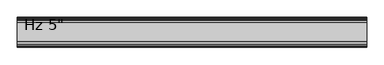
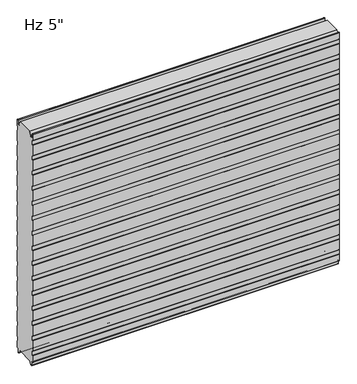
"""IFC4 building model written with IfcOpenShell, lengths in millimetres: plate geometry."""

from ifc_helpers import new_model, si_unit, frame, origin, place, context, project, spatial, polyline, circle_curve, source, transform, mapped, element, save
from ifc_brep_helpers import plane_surface, cylinder_surface, revolved_surface, advanced_brep


def plate_33ee314c(model_context):
    return source(origin(), model_context, "Body", "AdvancedBrep", [
        advanced_brep(
        [(-730.0, -124.8088405, 1097.7830195), (-730.0, -124.8088405, 1117.5660142), (-730.0, -125.9999956, 1118.6385351), (-730.0, -125.9999956, 1150.8100652), (-730.0, -124.0227271, 1152.7873337), (-730.0, -122.9806285, 1152.7873337), (-730.0, -121.00336, 1150.8100652), (-730.0, -121.00336, 1136.6216802), (-730.0, -118.4154835, 1134.0338036), (-730.0, -114.0950653, 1134.0338036), (-730.0, -113.5060718, 1133.4253365), (-730.0, -113.5060718, 1131.0482432), (-730.0, -112.5065979, 1131.0482432), (-730.0, -112.5065979, 1136.4905123), (-730.0, -103.2490821, 1152.525), (-730.0, -23.7509179, 1152.525), (-730.0, -14.4934021, 1136.4905123), (-730.0, -14.4934021, 1131.0482432), (-730.0, -13.4939282, 1131.0482432), (-730.0, -13.4939282, 1133.4253365), (-730.0, -12.9049347, 1134.0338036), (-730.0, -8.5845165, 1134.0338036), (-730.0, -5.99664, 1136.6216802), (-730.0, -5.99664, 1150.8100652), (-730.0, -4.0193715, 1152.7873337), (-730.0, -2.9772729, 1152.7873337), (-730.0, -1.0000044, 1150.8100652), (-730.0, -1.0000044, 1118.6385351), (-730.0, -2.1911595, 1117.5660142), (-730.0, -2.1911595, 1097.7830195), (-730.0, -1.0, 1096.7104947), (-730.0, -1.0, 1043.0159187), (-730.0, -2.1911595, 1041.9433939), (-730.0, -2.1911595, 1022.1603992), (-730.0, -1.0, 1021.0878744), (-730.0, -1.0, 967.3932985), (-730.0, -2.1911595, 966.3207736), (-730.0, -2.1911595, 946.537779), (-730.0, -1.0, 945.4652541), (-730.0, -1.0, 891.7706782), (-730.0, -2.1911595, 890.6981534), (-730.0, -2.1911595, 870.9151587), (-730.0, -1.0, 869.8426339), (-730.0, -1.0, 816.148058), (-730.0, -2.1911595, 815.0755331), (-730.0, -2.1911595, 795.2925384), (-730.0, -1.0, 794.2200136), (-730.0, -1.0, 740.5254377), (-730.0, -2.1911595, 739.4529129), (-730.0, -2.1911595, 719.6699182), (-730.0, -1.0, 718.5973933), (-730.0, -1.0, 664.9028174), (-730.0, -2.1911595, 663.8302926), (-730.0, -2.1911595, 644.0472979), (-730.0, -1.0, 642.9747731), (-730.0, -1.0, 589.2801972), (-730.0, -2.1911595, 588.2076723), (-730.0, -2.1911595, 568.4246776), (-730.0, -1.0, 567.3521528), (-730.0, -1.0, 513.6575769), (-730.0, -2.1911595, 512.5850521), (-730.0, -2.1911595, 492.8020574), (-730.0, -1.0, 491.7295325), (-730.0, -1.0, 438.0349566), (-730.0, -2.1911595, 436.9624318), (-730.0, -2.1911595, 417.1794371), (-730.0, -1.0, 416.1069123), (-730.0, -1.0, 362.4123364), (-730.0, -2.1911595, 361.3398115), (-730.0, -2.1911595, 341.5568169), (-730.0, -1.0, 340.484292), (-730.0, -1.0, 286.7897161), (-730.0, -2.1911595, 285.7171913), (-730.0, -2.1911595, 265.9341966), (-730.0, -1.0, 264.8616718), (-730.0, -1.0, 211.1670958), (-730.0, -2.1911595, 210.094571), (-730.0, -2.1911595, 190.3115763), (-730.0, -1.0, 189.2390515), (-730.0, -1.0, 135.5444756), (-730.0, -2.1911595, 134.4719507), (-730.0, -2.1911595, 114.6889561), (-730.0, -1.0, 113.6164312), (-730.0, -1.0, 59.9218553), (-730.0, -2.1911595, 58.8493305), (-730.0, -2.1911595, 39.0663358), (-730.0, -1.0000109, 37.993811), (-730.0, -1.0000109, 5.8272239), (-730.0, -2.9772849, 3.8499499), (-730.0, -5.2691749, 3.8499499), (-730.0, -9.246442, -0.1273173), (-730.0, -9.246442, -15.7237417), (-730.0, -9.8343189, -16.3116186), (-730.0, -12.9058679, -16.3116186), (-730.0, -13.4937446, -15.723742), (-730.0, -13.4937446, -13.3687064), (-730.0, -14.4937446, -13.3687064), (-730.0, -14.4937446, -15.6582851), (-730.0, -23.7509179, 0.0), (-730.0, -103.2490865, 0.0), (-730.0, -112.5062554, -15.6582851), (-730.0, -112.5062554, -13.3687064), (-730.0, -113.5062554, -13.3687064), (-730.0, -113.5062554, -15.723742), (-730.0, -114.0941321, -16.3116186), (-730.0, -117.1656811, -16.3116186), (-730.0, -117.753558, -15.7237417), (-730.0, -117.753558, -0.1273173), (-730.0, -121.7308251, 3.8499499), (-730.0, -124.0227151, 3.8499499), (-730.0, -125.9999891, 5.8272239), (-730.0, -125.9999891, 37.993811), (-730.0, -124.8088405, 39.0663358), (-730.0, -124.8088405, 58.8493305), (-730.0, -126.0, 59.9218553), (-730.0, -126.0, 113.6164312), (-730.0, -124.8088405, 114.6889561), (-730.0, -124.8088405, 134.4719507), (-730.0, -126.0, 135.5444756), (-730.0, -126.0, 189.2390515), (-730.0, -124.8088405, 190.3115763), (-730.0, -124.8088405, 210.094571), (-730.0, -126.0, 211.1670958), (-730.0, -126.0, 264.8616718), (-730.0, -124.8088405, 265.9341966), (-730.0, -124.8088405, 285.7171913), (-730.0, -126.0, 286.7897161), (-730.0, -126.0, 340.484292), (-730.0, -124.8088405, 341.5568169), (-730.0, -124.8088405, 361.3398115), (-730.0, -126.0, 362.4123364), (-730.0, -126.0, 416.1069123), (-730.0, -124.8088405, 417.1794371), (-730.0, -124.8088405, 436.9624318), (-730.0, -126.0, 438.0349566), (-730.0, -126.0, 491.7295325), (-730.0, -124.8088405, 492.8020574), (-730.0, -124.8088405, 512.5850521), (-730.0, -126.0, 513.6575769), (-730.0, -126.0, 567.3521528), (-730.0, -124.8088405, 568.4246776), (-730.0, -124.8088405, 588.2076723), (-730.0, -126.0, 589.2801972), (-730.0, -126.0, 642.9747731), (-730.0, -124.8088405, 644.0472979), (-730.0, -124.8088405, 663.8302926), (-730.0, -126.0, 664.9028174), (-730.0, -126.0, 718.5973933), (-730.0, -124.8088405, 719.6699182), (-730.0, -124.8088405, 739.4529129), (-730.0, -126.0, 740.5254377), (-730.0, -126.0, 794.2200136), (-730.0, -124.8088405, 795.2925384), (-730.0, -124.8088405, 815.0755331), (-730.0, -126.0, 816.148058), (-730.0, -126.0, 869.8426339), (-730.0, -124.8088405, 870.9151587), (-730.0, -124.8088405, 890.6981534), (-730.0, -126.0, 891.7706782), (-730.0, -126.0, 945.4652541), (-730.0, -124.8088405, 946.537779), (-730.0, -124.8088405, 966.3207736), (-730.0, -126.0, 967.3932985), (-730.0, -126.0, 1021.0878744), (-730.0, -124.8088405, 1022.1603992), (-730.0, -124.8088405, 1041.9433939), (-730.0, -126.0, 1043.0159187), (-730.0, -126.0, 1096.7104947), (730.0, -124.8088405, 1097.7830195), (730.0, -126.0, 1096.7104947), (730.0, -126.0, 1043.0159187), (730.0, -124.8088405, 1041.9433939), (730.0, -124.8088405, 1022.1603992), (730.0, -126.0, 1021.0878744), (730.0, -126.0, 967.3932985), (730.0, -124.8088405, 966.3207736), (730.0, -124.8088405, 946.537779), (730.0, -126.0, 945.4652541), (730.0, -126.0, 891.7706782), (730.0, -124.8088405, 890.6981534), (730.0, -124.8088405, 870.9151587), (730.0, -126.0, 869.8426339), (730.0, -126.0, 816.148058), (730.0, -124.8088405, 815.0755331), (730.0, -124.8088405, 795.2925384), (730.0, -126.0, 794.2200136), (730.0, -126.0, 740.5254377), (730.0, -124.8088405, 739.4529129), (730.0, -124.8088405, 719.6699182), (730.0, -126.0, 718.5973933), (730.0, -126.0, 664.9028174), (730.0, -124.8088405, 663.8302926), (730.0, -124.8088405, 644.0472979), (730.0, -126.0, 642.9747731), (730.0, -126.0, 589.2801972), (730.0, -124.8088405, 588.2076723), (730.0, -124.8088405, 568.4246776), (730.0, -126.0, 567.3521528), (730.0, -126.0, 513.6575769), (730.0, -124.8088405, 512.5850521), (730.0, -124.8088405, 492.8020574), (730.0, -126.0, 491.7295325), (730.0, -126.0, 438.0349566), (730.0, -124.8088405, 436.9624318), (730.0, -124.8088405, 417.1794371), (730.0, -126.0, 416.1069123), (730.0, -126.0, 362.4123364), (730.0, -124.8088405, 361.3398115), (730.0, -124.8088405, 341.5568169), (730.0, -126.0, 340.484292), (730.0, -126.0, 286.7897161), (730.0, -124.8088405, 285.7171913), (730.0, -124.8088405, 265.9341966), (730.0, -126.0, 264.8616718), (730.0, -126.0, 211.1670958), (730.0, -124.8088405, 210.094571), (730.0, -124.8088405, 190.3115763), (730.0, -126.0, 189.2390515), (730.0, -126.0, 135.5444756), (730.0, -124.8088405, 134.4719507), (730.0, -124.8088405, 114.6889561), (730.0, -126.0, 113.6164312), (730.0, -126.0, 59.9218553), (730.0, -124.8088405, 58.8493305), (730.0, -124.8088405, 39.0663358), (730.0, -125.9999891, 37.993811), (730.0, -125.9999891, 5.8272239), (730.0, -124.0227151, 3.8499499), (730.0, -121.7308251, 3.8499499), (730.0, -117.753558, -0.1273173), (730.0, -117.753558, -15.7237417), (730.0, -117.1656811, -16.3116186), (730.0, -114.0941321, -16.3116186), (730.0, -113.5062554, -15.723742), (730.0, -113.5062554, -13.3687064), (730.0, -112.5062554, -13.3687064), (730.0, -112.5062554, -15.6582851), (730.0, -103.2490821, 0.0), (730.0, -23.7509179, 0.0), (730.0, -14.4937446, -15.6582851), (730.0, -14.4937446, -13.3687064), (730.0, -13.4937446, -13.3687064), (730.0, -13.4937446, -15.723742), (730.0, -12.9058679, -16.3116186), (730.0, -9.8343189, -16.3116186), (730.0, -9.246442, -15.7237417), (730.0, -9.246442, -0.1273173), (730.0, -5.2691749, 3.8499499), (730.0, -2.9772849, 3.8499499), (730.0, -1.0000109, 5.8272239), (730.0, -1.0000109, 37.993811), (730.0, -2.1911595, 39.0663358), (730.0, -2.1911595, 58.8493305), (730.0, -1.0, 59.9218553), (730.0, -1.0, 113.6164312), (730.0, -2.1911595, 114.6889561), (730.0, -2.1911595, 134.4719507), (730.0, -1.0, 135.5444756), (730.0, -1.0, 189.2390515), (730.0, -2.1911595, 190.3115763), (730.0, -2.1911595, 210.094571), (730.0, -1.0, 211.1670958), (730.0, -1.0, 264.8616718), (730.0, -2.1911595, 265.9341966), (730.0, -2.1911595, 285.7171913), (730.0, -1.0, 286.7897161), (730.0, -1.0, 340.484292), (730.0, -2.1911595, 341.5568169), (730.0, -2.1911595, 361.3398115), (730.0, -1.0, 362.4123364), (730.0, -1.0, 416.1069123), (730.0, -2.1911595, 417.1794371), (730.0, -2.1911595, 436.9624318), (730.0, -1.0, 438.0349566), (730.0, -1.0, 491.7295325), (730.0, -2.1911595, 492.8020574), (730.0, -2.1911595, 512.5850521), (730.0, -1.0, 513.6575769), (730.0, -1.0, 567.3521528), (730.0, -2.1911595, 568.4246776), (730.0, -2.1911595, 588.2076723), (730.0, -1.0, 589.2801972), (730.0, -1.0, 642.9747731), (730.0, -2.1911595, 644.0472979), (730.0, -2.1911595, 663.8302926), (730.0, -1.0, 664.9028174), (730.0, -1.0, 718.5973933), (730.0, -2.1911595, 719.6699182), (730.0, -2.1911595, 739.4529129), (730.0, -1.0, 740.5254377), (730.0, -1.0, 794.2200136), (730.0, -2.1911595, 795.2925384), (730.0, -2.1911595, 815.0755331), (730.0, -1.0, 816.148058), (730.0, -1.0, 869.8426339), (730.0, -2.1911595, 870.9151587), (730.0, -2.1911595, 890.6981534), (730.0, -1.0, 891.7706782), (730.0, -1.0, 945.4652541), (730.0, -2.1911595, 946.537779), (730.0, -2.1911595, 966.3207736), (730.0, -1.0, 967.3932985), (730.0, -1.0, 1021.0878744), (730.0, -2.1911595, 1022.1603992), (730.0, -2.1911595, 1041.9433939), (730.0, -1.0, 1043.0159187), (730.0, -1.0, 1096.7104947), (730.0, -2.1911595, 1097.7830195), (730.0, -2.1911595, 1117.5660142), (730.0, -1.0000044, 1118.6385351), (730.0, -1.0000044, 1150.8100652), (730.0, -2.9772729, 1152.7873337), (730.0, -4.0193715, 1152.7873337), (730.0, -5.99664, 1150.8100652), (730.0, -5.99664, 1136.6216802), (730.0, -8.5845165, 1134.0338036), (730.0, -12.9049347, 1134.0338036), (730.0, -13.4939282, 1133.4253365), (730.0, -13.4939282, 1131.0482432), (730.0, -14.4934021, 1131.0482432), (730.0, -14.4934021, 1136.4905123), (730.0, -23.7509179, 1152.525), (730.0, -103.2490865, 1152.525), (730.0, -112.5065979, 1136.4905123), (730.0, -112.5065979, 1131.0482432), (730.0, -113.5060718, 1131.0482432), (730.0, -113.5060718, 1133.4253365), (730.0, -114.0950653, 1134.0338036), (730.0, -118.4154835, 1134.0338036), (730.0, -121.00336, 1136.6216802), (730.0, -121.00336, 1150.8100652), (730.0, -122.9806285, 1152.7873337), (730.0, -124.0227271, 1152.7873337), (730.0, -125.9999956, 1150.8100652), (730.0, -125.9999956, 1118.6385351), (730.0, -124.8088405, 1117.5660142)],
        [
            (0, 1),
            (1, 2),
            (2, 3),
            (3, 4, circle_curve(frame((-730.0, -124.0227271, 1150.8100652), z_axis=(-1.0, 0.0, 0.0), x_axis=(0.0, 0.0, -1.0)), 1.9772685)),
            (4, 5),
            (5, 6, circle_curve(frame((-730.0, -122.9806285, 1150.8100652), z_axis=(-1.0, 0.0, 0.0), x_axis=(0.0, 0.0, -1.0)), 1.9772685)),
            (6, 7),
            (7, 8, circle_curve(frame((-730.0, -118.4154835, 1136.6216802), z_axis=(1.0, 0.0, 0.0), x_axis=(0.0, 0.0, -1.0)), 2.5878765)),
            (8, 9),
            (9, 10, circle_curve(frame((-730.0, -114.0950653, 1133.4444985), z_axis=(-1.0, 0.0, 0.0), x_axis=(0.0, 0.0, -1.0)), 0.5893051)),
            (10, 11),
            (11, 12),
            (12, 13),
            (13, 14),
            (14, 15),
            (15, 16),
            (16, 17),
            (17, 18),
            (18, 19),
            (19, 20, circle_curve(frame((-730.0, -12.9049347, 1133.4444985), z_axis=(-1.0, 0.0, 0.0), x_axis=(0.0, 1.0, 0.0)), 0.5893051)),
            (20, 21),
            (21, 22, circle_curve(frame((-730.0, -8.5845165, 1136.6216802), z_axis=(1.0, 0.0, 0.0), x_axis=(0.0, 1.0, 0.0)), 2.5878765)),
            (22, 23),
            (23, 24, circle_curve(frame((-730.0, -4.0193715, 1150.8100652), z_axis=(-1.0, 0.0, 0.0), x_axis=(0.0, 1.0, 0.0)), 1.9772685)),
            (24, 25),
            (25, 26, circle_curve(frame((-730.0, -2.9772729, 1150.8100652), z_axis=(-1.0, 0.0, 0.0), x_axis=(0.0, 1.0, 0.0)), 1.9772685)),
            (26, 27),
            (27, 28),
            (28, 29),
            (29, 30),
            (30, 31),
            (31, 32),
            (32, 33),
            (33, 34),
            (34, 35),
            (35, 36),
            (36, 37),
            (37, 38),
            (38, 39),
            (39, 40),
            (40, 41),
            (41, 42),
            (42, 43),
            (43, 44),
            (44, 45),
            (45, 46),
            (46, 47),
            (47, 48),
            (48, 49),
            (49, 50),
            (50, 51),
            (51, 52),
            (52, 53),
            (53, 54),
            (54, 55),
            (55, 56),
            (56, 57),
            (57, 58),
            (58, 59),
            (59, 60),
            (60, 61),
            (61, 62),
            (62, 63),
            (63, 64),
            (64, 65),
            (65, 66),
            (66, 67),
            (67, 68),
            (68, 69),
            (69, 70),
            (70, 71),
            (71, 72),
            (72, 73),
            (73, 74),
            (74, 75),
            (75, 76),
            (76, 77),
            (77, 78),
            (78, 79),
            (79, 80),
            (80, 81),
            (81, 82),
            (82, 83),
            (83, 84),
            (84, 85),
            (85, 86),
            (86, 87),
            (87, 88, circle_curve(frame((-730.0, -2.9772849, 5.8272239), z_axis=(-1.0, 0.0, 0.0), x_axis=(0.0, 1.0, 0.0)), 1.977274)),
            (88, 89),
            (89, 90, circle_curve(frame((-730.0, -5.2691749, -0.1273173), z_axis=(1.0, 0.0, 0.0), x_axis=(0.0, 1.0, 0.0)), 3.9772671)),
            (90, 91),
            (91, 92, circle_curve(frame((-730.0, -9.8343189, -15.7237417), z_axis=(-1.0, 0.0, 0.0), x_axis=(0.0, 1.0, 0.0)), 0.5878769)),
            (92, 93),
            (93, 94, circle_curve(frame((-730.0, -12.9058679, -15.723742), z_axis=(-1.0, 0.0, 0.0), x_axis=(0.0, 1.0, 0.0)), 0.5878766)),
            (94, 95),
            (95, 96),
            (96, 97),
            (97, 98),
            (98, 99),
            (99, 100),
            (100, 101),
            (101, 102),
            (102, 103),
            (103, 104, circle_curve(frame((-730.0, -114.0941321, -15.723742), z_axis=(-1.0, 0.0, 0.0), x_axis=(0.0, 0.0, -1.0)), 0.5878766)),
            (104, 105),
            (105, 106, circle_curve(frame((-730.0, -117.1656811, -15.7237417), z_axis=(-1.0, 0.0, 0.0), x_axis=(0.0, 0.0, -1.0)), 0.5878769)),
            (106, 107),
            (107, 108, circle_curve(frame((-730.0, -121.7308251, -0.1273173), z_axis=(1.0, 0.0, 0.0), x_axis=(0.0, 0.0, -1.0)), 3.9772671)),
            (108, 109),
            (109, 110, circle_curve(frame((-730.0, -124.0227151, 5.8272239), z_axis=(-1.0, 0.0, 0.0), x_axis=(0.0, 0.0, -1.0)), 1.977274)),
            (110, 111),
            (111, 112),
            (112, 113),
            (113, 114),
            (114, 115),
            (115, 116),
            (116, 117),
            (117, 118),
            (118, 119),
            (119, 120),
            (120, 121),
            (121, 122),
            (122, 123),
            (123, 124),
            (124, 125),
            (125, 126),
            (126, 127),
            (127, 128),
            (128, 129),
            (129, 130),
            (130, 131),
            (131, 132),
            (132, 133),
            (133, 134),
            (134, 135),
            (135, 136),
            (136, 137),
            (137, 138),
            (138, 139),
            (139, 140),
            (140, 141),
            (141, 142),
            (142, 143),
            (143, 144),
            (144, 145),
            (145, 146),
            (146, 147),
            (147, 148),
            (148, 149),
            (149, 150),
            (150, 151),
            (151, 152),
            (152, 153),
            (153, 154),
            (154, 155),
            (155, 156),
            (156, 157),
            (157, 158),
            (158, 159),
            (159, 160),
            (160, 161),
            (161, 162),
            (162, 163),
            (163, 164),
            (164, 165),
            (165, 166),
            (166, 167),
            (167, 0),
            (168, 169),
            (169, 170),
            (170, 171),
            (171, 172),
            (172, 173),
            (173, 174),
            (174, 175),
            (175, 176),
            (176, 177),
            (177, 178),
            (178, 179),
            (179, 180),
            (180, 181),
            (181, 182),
            (182, 183),
            (183, 184),
            (184, 185),
            (185, 186),
            (186, 187),
            (187, 188),
            (188, 189),
            (189, 190),
            (190, 191),
            (191, 192),
            (192, 193),
            (193, 194),
            (194, 195),
            (195, 196),
            (196, 197),
            (197, 198),
            (198, 199),
            (199, 200),
            (200, 201),
            (201, 202),
            (202, 203),
            (203, 204),
            (204, 205),
            (205, 206),
            (206, 207),
            (207, 208),
            (208, 209),
            (209, 210),
            (210, 211),
            (211, 212),
            (212, 213),
            (213, 214),
            (214, 215),
            (215, 216),
            (216, 217),
            (217, 218),
            (218, 219),
            (219, 220),
            (220, 221),
            (221, 222),
            (222, 223),
            (223, 224),
            (224, 225),
            (225, 226),
            (226, 227, circle_curve(frame((730.0, -124.0227151, 5.8272239), z_axis=(1.0, 0.0, 0.0), x_axis=(0.0, 0.0, -1.0)), 1.977274)),
            (227, 228),
            (228, 229, circle_curve(frame((730.0, -121.7308251, -0.1273173), z_axis=(-1.0, 0.0, 0.0), x_axis=(0.0, 0.0, -1.0)), 3.9772671)),
            (229, 230),
            (230, 231, circle_curve(frame((730.0, -117.1656811, -15.7237417), z_axis=(1.0, 0.0, 0.0), x_axis=(0.0, 0.0, -1.0)), 0.5878769)),
            (231, 232),
            (232, 233, circle_curve(frame((730.0, -114.0941321, -15.723742), z_axis=(1.0, 0.0, 0.0), x_axis=(0.0, 0.0, -1.0)), 0.5878766)),
            (233, 234),
            (234, 235),
            (235, 236),
            (236, 237),
            (237, 238),
            (238, 239),
            (239, 240),
            (240, 241),
            (241, 242),
            (242, 243, circle_curve(frame((730.0, -12.9058679, -15.723742), z_axis=(1.0, 0.0, 0.0), x_axis=(0.0, 1.0, 0.0)), 0.5878766)),
            (243, 244),
            (244, 245, circle_curve(frame((730.0, -9.8343189, -15.7237417), z_axis=(1.0, 0.0, 0.0), x_axis=(0.0, 1.0, 0.0)), 0.5878769)),
            (245, 246),
            (246, 247, circle_curve(frame((730.0, -5.2691749, -0.1273173), z_axis=(-1.0, 0.0, 0.0), x_axis=(0.0, 1.0, 0.0)), 3.9772671)),
            (247, 248),
            (248, 249, circle_curve(frame((730.0, -2.9772849, 5.8272239), z_axis=(1.0, 0.0, 0.0), x_axis=(0.0, 1.0, 0.0)), 1.977274)),
            (249, 250),
            (250, 251),
            (251, 252),
            (252, 253),
            (253, 254),
            (254, 255),
            (255, 256),
            (256, 257),
            (257, 258),
            (258, 259),
            (259, 260),
            (260, 261),
            (261, 262),
            (262, 263),
            (263, 264),
            (264, 265),
            (265, 266),
            (266, 267),
            (267, 268),
            (268, 269),
            (269, 270),
            (270, 271),
            (271, 272),
            (272, 273),
            (273, 274),
            (274, 275),
            (275, 276),
            (276, 277),
            (277, 278),
            (278, 279),
            (279, 280),
            (280, 281),
            (281, 282),
            (282, 283),
            (283, 284),
            (284, 285),
            (285, 286),
            (286, 287),
            (287, 288),
            (288, 289),
            (289, 290),
            (290, 291),
            (291, 292),
            (292, 293),
            (293, 294),
            (294, 295),
            (295, 296),
            (296, 297),
            (297, 298),
            (298, 299),
            (299, 300),
            (300, 301),
            (301, 302),
            (302, 303),
            (303, 304),
            (304, 305),
            (305, 306),
            (306, 307),
            (307, 308),
            (308, 309),
            (309, 310),
            (310, 311, circle_curve(frame((730.0, -2.9772729, 1150.8100652), z_axis=(1.0, 0.0, 0.0), x_axis=(0.0, 1.0, 0.0)), 1.9772685)),
            (311, 312),
            (312, 313, circle_curve(frame((730.0, -4.0193715, 1150.8100652), z_axis=(1.0, 0.0, 0.0), x_axis=(0.0, 1.0, 0.0)), 1.9772685)),
            (313, 314),
            (314, 315, circle_curve(frame((730.0, -8.5845165, 1136.6216802), z_axis=(-1.0, 0.0, 0.0), x_axis=(0.0, 1.0, 0.0)), 2.5878765)),
            (315, 316),
            (316, 317, circle_curve(frame((730.0, -12.9049347, 1133.4444985), z_axis=(1.0, 0.0, 0.0), x_axis=(0.0, 1.0, 0.0)), 0.5893051)),
            (317, 318),
            (318, 319),
            (319, 320),
            (320, 321),
            (321, 322),
            (322, 323),
            (323, 324),
            (324, 325),
            (325, 326),
            (326, 327, circle_curve(frame((730.0, -114.0950653, 1133.4444985), z_axis=(1.0, 0.0, 0.0), x_axis=(0.0, 0.0, -1.0)), 0.5893051)),
            (327, 328),
            (328, 329, circle_curve(frame((730.0, -118.4154835, 1136.6216802), z_axis=(-1.0, 0.0, 0.0), x_axis=(0.0, 0.0, -1.0)), 2.5878765)),
            (329, 330),
            (330, 331, circle_curve(frame((730.0, -122.9806285, 1150.8100652), z_axis=(1.0, 0.0, 0.0), x_axis=(0.0, 0.0, -1.0)), 1.9772685)),
            (331, 332),
            (332, 333, circle_curve(frame((730.0, -124.0227271, 1150.8100652), z_axis=(1.0, 0.0, 0.0), x_axis=(0.0, 0.0, -1.0)), 1.9772685)),
            (333, 334),
            (334, 335),
            (335, 168),
            (28, 308),
            (307, 29),
            (27, 309),
            (26, 310),
            (25, 311),
            (24, 312),
            (23, 313),
            (22, 314),
            (21, 315),
            (20, 316),
            (19, 317),
            (18, 318),
            (17, 319),
            (16, 320),
            (15, 321),
            (97, 239),
            (238, 98),
            (96, 240),
            (95, 241),
            (94, 242),
            (93, 243),
            (92, 244),
            (91, 245),
            (90, 246),
            (89, 247),
            (88, 248),
            (87, 249),
            (86, 250),
            (85, 251),
            (84, 252),
            (83, 253),
            (82, 254),
            (81, 255),
            (80, 256),
            (79, 257),
            (78, 258),
            (77, 259),
            (76, 260),
            (75, 261),
            (74, 262),
            (73, 263),
            (72, 264),
            (71, 265),
            (70, 266),
            (69, 267),
            (68, 268),
            (67, 269),
            (66, 270),
            (65, 271),
            (64, 272),
            (63, 273),
            (62, 274),
            (61, 275),
            (60, 276),
            (59, 277),
            (58, 278),
            (57, 279),
            (56, 280),
            (55, 281),
            (54, 282),
            (53, 283),
            (52, 284),
            (51, 285),
            (50, 286),
            (49, 287),
            (48, 288),
            (47, 289),
            (46, 290),
            (45, 291),
            (44, 292),
            (43, 293),
            (42, 294),
            (41, 295),
            (40, 296),
            (39, 297),
            (38, 298),
            (37, 299),
            (36, 300),
            (35, 301),
            (34, 302),
            (33, 303),
            (32, 304),
            (31, 305),
            (30, 306),
            (14, 322),
            (237, 99),
            (167, 169),
            (168, 0),
            (166, 170),
            (165, 171),
            (164, 172),
            (163, 173),
            (162, 174),
            (161, 175),
            (160, 176),
            (159, 177),
            (158, 178),
            (157, 179),
            (156, 180),
            (155, 181),
            (154, 182),
            (153, 183),
            (152, 184),
            (151, 185),
            (150, 186),
            (149, 187),
            (148, 188),
            (147, 189),
            (146, 190),
            (145, 191),
            (144, 192),
            (143, 193),
            (142, 194),
            (141, 195),
            (140, 196),
            (139, 197),
            (138, 198),
            (137, 199),
            (136, 200),
            (135, 201),
            (134, 202),
            (133, 203),
            (132, 204),
            (131, 205),
            (130, 206),
            (129, 207),
            (128, 208),
            (127, 209),
            (126, 210),
            (125, 211),
            (124, 212),
            (123, 213),
            (122, 214),
            (121, 215),
            (120, 216),
            (119, 217),
            (118, 218),
            (117, 219),
            (116, 220),
            (115, 221),
            (114, 222),
            (113, 223),
            (112, 224),
            (111, 225),
            (110, 226),
            (109, 227),
            (108, 228),
            (107, 229),
            (106, 230),
            (105, 231),
            (104, 232),
            (103, 233),
            (102, 234),
            (101, 235),
            (100, 236),
            (13, 323),
            (12, 324),
            (11, 325),
            (10, 326),
            (9, 327),
            (8, 328),
            (7, 329),
            (6, 330),
            (5, 331),
            (4, 332),
            (3, 333),
            (2, 334),
            (1, 335),
        ],
        [
            plane_surface(frame((-730.0, -126.0, 576.2625), z_axis=(-1.0, 0.0, 0.0), x_axis=(0.0, -1.0, 0.0))),
            plane_surface(frame((730.0, -126.0, 576.2625), z_axis=(1.0, 0.0, 0.0), x_axis=(0.0, -1.0, 0.0))),
            plane_surface(frame((-730.0, -2.1911595, 1097.7830195), z_axis=(0.0, 1.0, 0.0), x_axis=(1.0, 0.0, 0.0))),
            plane_surface(frame((-730.0, -2.1911595, 1117.5660142), z_axis=(0.0, 0.669130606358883, -0.7431448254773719), x_axis=(1.0, 0.0, 0.0))),
            plane_surface(frame((-730.0, -1.0000044, 1118.6385351), z_axis=(0.0, 1.0, 0.0), x_axis=(1.0, 0.0, 0.0))),
            cylinder_surface(frame((-730.0, -2.9772729, 1150.8100652), z_axis=(-1.0, 0.0, 0.0), x_axis=(0.0, 1.0, 0.0)), 1.9772685),
            plane_surface(frame((-730.0, -2.9772729, 1152.7873337), z_axis=(0.0, 0.0, 1.0), x_axis=(1.0, 0.0, 0.0))),
            cylinder_surface(frame((-730.0, -4.0193715, 1150.8100652), z_axis=(-1.0, 0.0, 0.0), x_axis=(0.0, 1.0, 0.0)), 1.9772685),
            plane_surface(frame((-730.0, -5.99664, 1150.8100652), z_axis=(0.0, -1.0, 0.0), x_axis=(1.0, 0.0, 0.0))),
            revolved_surface(polyline([(730.0, -5.996639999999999, 1136.6216802), (-730.0, -5.996639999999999, 1136.6216802)]), (-730.0, -8.5845165, 1136.6216802), (1.0, 0.0, 0.0)),
            plane_surface(frame((-730.0, -8.5845165, 1134.0338036), z_axis=(0.0, 0.0, 1.0), x_axis=(1.0, 0.0, 0.0))),
            cylinder_surface(frame((-730.0, -12.9049347, 1133.4444985), z_axis=(-1.0, 0.0, 0.0), x_axis=(0.0, 1.0, 0.0)), 0.5893051),
            plane_surface(frame((-730.0, -13.4939282, 1133.4253365), z_axis=(0.0, -1.0, 0.0), x_axis=(1.0, 0.0, 0.0))),
            plane_surface(frame((-730.0, -13.4939282, 1131.0482432), z_axis=(0.0, 0.0, 1.0), x_axis=(1.0, 0.0, 0.0))),
            plane_surface(frame((-730.0, -14.4934021, 1131.0482432), z_axis=(0.0, 1.0, 0.0), x_axis=(1.0, 0.0, 0.0))),
            plane_surface(frame((-730.0, -14.4934021, 1136.4905123), z_axis=(0.0, 0.8660254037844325, 0.5000000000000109), x_axis=(1.0, 0.0, 0.0))),
            plane_surface(frame((-730.0, -23.7509179, 0.0), z_axis=(0.0, -0.8608169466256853, -0.5089147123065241), x_axis=(1.0, 0.0, 0.0))),
            plane_surface(frame((-730.0, -14.4937446, -15.6582851), z_axis=(0.0, 1.0, 0.0), x_axis=(1.0, 0.0, 0.0))),
            plane_surface(frame((-730.0, -14.4937446, -13.3687064), z_axis=(0.0, 0.0, -1.0), x_axis=(1.0, 0.0, 0.0))),
            plane_surface(frame((-730.0, -13.4937446, -13.3687064), z_axis=(0.0, -1.0, 0.0), x_axis=(1.0, 0.0, 0.0))),
            cylinder_surface(frame((-730.0, -12.9058679, -15.723742), z_axis=(-1.0, 0.0, 0.0), x_axis=(0.0, 1.0, 0.0)), 0.5878766),
            plane_surface(frame((-730.0, -12.9058679, -16.3116186), z_axis=(0.0, 0.0, -1.0), x_axis=(1.0, 0.0, 0.0))),
            cylinder_surface(frame((-730.0, -9.8343189, -15.7237417), z_axis=(-1.0, 0.0, 0.0), x_axis=(0.0, 1.0, 0.0)), 0.5878769),
            plane_surface(frame((-730.0, -9.246442, -15.7237417), z_axis=(0.0, 1.0, 0.0), x_axis=(1.0, 0.0, 0.0))),
            revolved_surface(polyline([(730.0, -1.2919078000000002, -0.1273173), (-730.0, -1.2919078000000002, -0.1273173)]), (-730.0, -5.2691749, -0.1273173), (1.0, 0.0, 0.0)),
            plane_surface(frame((-730.0, -5.2691749, 3.8499499), z_axis=(0.0, 0.0, -1.0), x_axis=(1.0, 0.0, 0.0))),
            cylinder_surface(frame((-730.0, -2.9772849, 5.8272239), z_axis=(-1.0, 0.0, 0.0), x_axis=(0.0, 1.0, 0.0)), 1.977274),
            plane_surface(frame((-730.0, -1.0000109, 5.8272239), z_axis=(0.0, 1.0, 0.0), x_axis=(1.0, 0.0, 0.0))),
            plane_surface(frame((-730.0, -1.0000109, 37.993811), z_axis=(0.0, 0.6691339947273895, 0.7431417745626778), x_axis=(1.0, 0.0, 0.0))),
            plane_surface(frame((-730.0, -2.1911595, 39.0663358), z_axis=(0.0, 1.0, 0.0), x_axis=(1.0, 0.0, 0.0))),
            plane_surface(frame((-730.0, -2.1911595, 58.8493305), z_axis=(0.0, 0.6691306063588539, -0.7431448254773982), x_axis=(1.0, 0.0, 0.0))),
            plane_surface(frame((-730.0, -1.0, 59.9218553), z_axis=(0.0, 1.0, 0.0), x_axis=(1.0, 0.0, 0.0))),
            plane_surface(frame((-730.0, -1.0, 113.6164312), z_axis=(0.0, 0.6691306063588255, 0.7431448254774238), x_axis=(1.0, 0.0, 0.0))),
            plane_surface(frame((-730.0, -2.1911595, 114.6889561), z_axis=(0.0, 1.0, 0.0), x_axis=(1.0, 0.0, 0.0))),
            plane_surface(frame((-730.0, -2.1911595, 134.4719507), z_axis=(0.0, 0.6691306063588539, -0.7431448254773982), x_axis=(1.0, 0.0, 0.0))),
            plane_surface(frame((-730.0, -1.0, 135.5444756), z_axis=(0.0, 1.0, 0.0), x_axis=(1.0, 0.0, 0.0))),
            plane_surface(frame((-730.0, -1.0, 189.2390515), z_axis=(0.0, 0.669130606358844, 0.743144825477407), x_axis=(1.0, 0.0, 0.0))),
            plane_surface(frame((-730.0, -2.1911595, 190.3115763), z_axis=(0.0, 1.0, 0.0), x_axis=(1.0, 0.0, 0.0))),
            plane_surface(frame((-730.0, -2.1911595, 210.094571), z_axis=(0.0, 0.6691306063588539, -0.7431448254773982), x_axis=(1.0, 0.0, 0.0))),
            plane_surface(frame((-730.0, -1.0, 211.1670958), z_axis=(0.0, 1.0, 0.0), x_axis=(1.0, 0.0, 0.0))),
            plane_surface(frame((-730.0, -1.0, 264.8616718), z_axis=(0.0, 0.6691306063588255, 0.7431448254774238), x_axis=(1.0, 0.0, 0.0))),
            plane_surface(frame((-730.0, -2.1911595, 265.9341966), z_axis=(0.0, 1.0, 0.0), x_axis=(1.0, 0.0, 0.0))),
            plane_surface(frame((-730.0, -2.1911595, 285.7171913), z_axis=(0.0, 0.6691306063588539, -0.7431448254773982), x_axis=(1.0, 0.0, 0.0))),
            plane_surface(frame((-730.0, -1.0, 286.7897161), z_axis=(0.0, 1.0, 0.0), x_axis=(1.0, 0.0, 0.0))),
            plane_surface(frame((-730.0, -1.0, 340.484292), z_axis=(0.0, 0.669130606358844, 0.743144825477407), x_axis=(1.0, 0.0, 0.0))),
            plane_surface(frame((-730.0, -2.1911595, 341.5568169), z_axis=(0.0, 1.0, 0.0), x_axis=(1.0, 0.0, 0.0))),
            plane_surface(frame((-730.0, -2.1911595, 361.3398115), z_axis=(0.0, 0.6691306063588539, -0.7431448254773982), x_axis=(1.0, 0.0, 0.0))),
            plane_surface(frame((-730.0, -1.0, 362.4123364), z_axis=(0.0, 1.0, 0.0), x_axis=(1.0, 0.0, 0.0))),
            plane_surface(frame((-730.0, -1.0, 416.1069123), z_axis=(0.0, 0.669130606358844, 0.743144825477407), x_axis=(1.0, 0.0, 0.0))),
            plane_surface(frame((-730.0, -2.1911595, 417.1794371), z_axis=(0.0, 1.0, 0.0), x_axis=(1.0, 0.0, 0.0))),
            plane_surface(frame((-730.0, -2.1911595, 436.9624318), z_axis=(0.0, 0.6691306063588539, -0.7431448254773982), x_axis=(1.0, 0.0, 0.0))),
            plane_surface(frame((-730.0, -1.0, 438.0349566), z_axis=(0.0, 1.0, 0.0), x_axis=(1.0, 0.0, 0.0))),
            plane_surface(frame((-730.0, -1.0, 491.7295325), z_axis=(0.0, 0.6691306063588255, 0.7431448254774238), x_axis=(1.0, 0.0, 0.0))),
            plane_surface(frame((-730.0, -2.1911595, 492.8020574), z_axis=(0.0, 1.0, 0.0), x_axis=(1.0, 0.0, 0.0))),
            plane_surface(frame((-730.0, -2.1911595, 512.5850521), z_axis=(0.0, 0.6691306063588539, -0.7431448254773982), x_axis=(1.0, 0.0, 0.0))),
            plane_surface(frame((-730.0, -1.0, 513.6575769), z_axis=(0.0, 1.0, 0.0), x_axis=(1.0, 0.0, 0.0))),
            plane_surface(frame((-730.0, -1.0, 567.3521528), z_axis=(0.0, 0.669130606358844, 0.743144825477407), x_axis=(1.0, 0.0, 0.0))),
            plane_surface(frame((-730.0, -2.1911595, 568.4246776), z_axis=(0.0, 1.0, 0.0), x_axis=(1.0, 0.0, 0.0))),
            plane_surface(frame((-730.0, -2.1911595, 588.2076723), z_axis=(0.0, 0.6691306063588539, -0.7431448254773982), x_axis=(1.0, 0.0, 0.0))),
            plane_surface(frame((-730.0, -1.0, 589.2801972), z_axis=(0.0, 1.0, 0.0), x_axis=(1.0, 0.0, 0.0))),
            plane_surface(frame((-730.0, -1.0, 642.9747731), z_axis=(0.0, 0.6691306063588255, 0.7431448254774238), x_axis=(1.0, 0.0, 0.0))),
            plane_surface(frame((-730.0, -2.1911595, 644.0472979), z_axis=(0.0, 1.0, 0.0), x_axis=(1.0, 0.0, 0.0))),
            plane_surface(frame((-730.0, -2.1911595, 663.8302926), z_axis=(0.0, 0.6691306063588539, -0.7431448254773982), x_axis=(1.0, 0.0, 0.0))),
            plane_surface(frame((-730.0, -1.0, 664.9028174), z_axis=(0.0, 1.0, 0.0), x_axis=(1.0, 0.0, 0.0))),
            plane_surface(frame((-730.0, -1.0, 718.5973933), z_axis=(0.0, 0.669130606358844, 0.743144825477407), x_axis=(1.0, 0.0, 0.0))),
            plane_surface(frame((-730.0, -2.1911595, 719.6699182), z_axis=(0.0, 1.0, 0.0), x_axis=(1.0, 0.0, 0.0))),
            plane_surface(frame((-730.0, -2.1911595, 739.4529129), z_axis=(0.0, 0.6691306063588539, -0.7431448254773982), x_axis=(1.0, 0.0, 0.0))),
            plane_surface(frame((-730.0, -1.0, 740.5254377), z_axis=(0.0, 1.0, 0.0), x_axis=(1.0, 0.0, 0.0))),
            plane_surface(frame((-730.0, -1.0, 794.2200136), z_axis=(0.0, 0.6691306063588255, 0.7431448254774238), x_axis=(1.0, 0.0, 0.0))),
            plane_surface(frame((-730.0, -2.1911595, 795.2925384), z_axis=(0.0, 1.0, 0.0), x_axis=(1.0, 0.0, 0.0))),
            plane_surface(frame((-730.0, -2.1911595, 815.0755331), z_axis=(0.0, 0.6691306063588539, -0.7431448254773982), x_axis=(1.0, 0.0, 0.0))),
            plane_surface(frame((-730.0, -1.0, 816.148058), z_axis=(0.0, 1.0, 0.0), x_axis=(1.0, 0.0, 0.0))),
            plane_surface(frame((-730.0, -1.0, 869.8426339), z_axis=(0.0, 0.669130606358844, 0.743144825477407), x_axis=(1.0, 0.0, 0.0))),
            plane_surface(frame((-730.0, -2.1911595, 870.9151587), z_axis=(0.0, 1.0, 0.0), x_axis=(1.0, 0.0, 0.0))),
            plane_surface(frame((-730.0, -2.1911595, 890.6981534), z_axis=(0.0, 0.6691306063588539, -0.7431448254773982), x_axis=(1.0, 0.0, 0.0))),
            plane_surface(frame((-730.0, -1.0, 891.7706782), z_axis=(0.0, 1.0, 0.0), x_axis=(1.0, 0.0, 0.0))),
            plane_surface(frame((-730.0, -1.0, 945.4652541), z_axis=(0.0, 0.669130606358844, 0.743144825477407), x_axis=(1.0, 0.0, 0.0))),
            plane_surface(frame((-730.0, -2.1911595, 946.537779), z_axis=(0.0, 1.0, 0.0), x_axis=(1.0, 0.0, 0.0))),
            plane_surface(frame((-730.0, -2.1911595, 966.3207736), z_axis=(0.0, 0.6691306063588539, -0.7431448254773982), x_axis=(1.0, 0.0, 0.0))),
            plane_surface(frame((-730.0, -1.0, 967.3932985), z_axis=(0.0, 1.0, 0.0), x_axis=(1.0, 0.0, 0.0))),
            plane_surface(frame((-730.0, -1.0, 1021.0878744), z_axis=(0.0, 0.669130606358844, 0.743144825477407), x_axis=(1.0, 0.0, 0.0))),
            plane_surface(frame((-730.0, -2.1911595, 1022.1603992), z_axis=(0.0, 1.0, 0.0), x_axis=(1.0, 0.0, 0.0))),
            plane_surface(frame((-730.0, -2.1911595, 1041.9433939), z_axis=(0.0, 0.6691306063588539, -0.7431448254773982), x_axis=(1.0, 0.0, 0.0))),
            plane_surface(frame((-730.0, -1.0, 1043.0159187), z_axis=(0.0, 1.0, 0.0), x_axis=(1.0, 0.0, 0.0))),
            plane_surface(frame((-730.0, -1.0, 1096.7104947), z_axis=(0.0, 0.669130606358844, 0.743144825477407), x_axis=(1.0, 0.0, 0.0))),
            plane_surface(frame((-730.0, -103.2490865, 1152.525), z_axis=(0.0, 0.0, 1.0), x_axis=(-1.0, 0.0, 0.0))),
            plane_surface(frame((-730.0, -103.2490865, 0.0), z_axis=(0.0, 0.0, -1.0), x_axis=(1.0, 0.0, 0.0))),
            plane_surface(frame((-730.0, -124.8088405, 1097.7830195), z_axis=(0.0, -0.6691306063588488, 0.7431448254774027), x_axis=(1.0, 0.0, 0.0))),
            plane_surface(frame((-730.0, -126.0, 1096.7104947), z_axis=(0.0, -1.0, 0.0), x_axis=(1.0, 0.0, 0.0))),
            plane_surface(frame((-730.0, -126.0, 1043.0159187), z_axis=(0.0, -0.6691306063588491, -0.7431448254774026), x_axis=(1.0, 0.0, 0.0))),
            plane_surface(frame((-730.0, -124.8088405, 1041.9433939), z_axis=(0.0, -1.0, 0.0), x_axis=(1.0, 0.0, 0.0))),
            plane_surface(frame((-730.0, -124.8088405, 1022.1603992), z_axis=(0.0, -0.6691306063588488, 0.7431448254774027), x_axis=(1.0, 0.0, 0.0))),
            plane_surface(frame((-730.0, -126.0, 1021.0878744), z_axis=(0.0, -1.0, 0.0), x_axis=(1.0, 0.0, 0.0))),
            plane_surface(frame((-730.0, -126.0, 967.3932985), z_axis=(0.0, -0.6691306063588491, -0.7431448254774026), x_axis=(1.0, 0.0, 0.0))),
            plane_surface(frame((-730.0, -124.8088405, 966.3207736), z_axis=(0.0, -1.0, 0.0), x_axis=(1.0, 0.0, 0.0))),
            plane_surface(frame((-730.0, -124.8088405, 946.537779), z_axis=(0.0, -0.6691306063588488, 0.7431448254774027), x_axis=(1.0, 0.0, 0.0))),
            plane_surface(frame((-730.0, -126.0, 945.4652541), z_axis=(0.0, -1.0, 0.0), x_axis=(1.0, 0.0, 0.0))),
            plane_surface(frame((-730.0, -126.0, 891.7706782), z_axis=(0.0, -0.6691306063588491, -0.7431448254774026), x_axis=(1.0, 0.0, 0.0))),
            plane_surface(frame((-730.0, -124.8088405, 890.6981534), z_axis=(0.0, -1.0, 0.0), x_axis=(1.0, 0.0, 0.0))),
            plane_surface(frame((-730.0, -124.8088405, 870.9151587), z_axis=(0.0, -0.6691306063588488, 0.7431448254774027), x_axis=(1.0, 0.0, 0.0))),
            plane_surface(frame((-730.0, -126.0, 869.8426339), z_axis=(0.0, -1.0, 0.0), x_axis=(1.0, 0.0, 0.0))),
            plane_surface(frame((-730.0, -126.0, 816.148058), z_axis=(0.0, -0.6691306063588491, -0.7431448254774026), x_axis=(1.0, 0.0, 0.0))),
            plane_surface(frame((-730.0, -124.8088405, 815.0755331), z_axis=(0.0, -1.0, 0.0), x_axis=(1.0, 0.0, 0.0))),
            plane_surface(frame((-730.0, -124.8088405, 795.2925384), z_axis=(0.0, -0.6691306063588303, 0.7431448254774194), x_axis=(1.0, 0.0, 0.0))),
            plane_surface(frame((-730.0, -126.0, 794.2200136), z_axis=(0.0, -1.0, 0.0), x_axis=(1.0, 0.0, 0.0))),
            plane_surface(frame((-730.0, -126.0, 740.5254377), z_axis=(0.0, -0.6691306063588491, -0.7431448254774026), x_axis=(1.0, 0.0, 0.0))),
            plane_surface(frame((-730.0, -124.8088405, 739.4529129), z_axis=(0.0, -1.0, 0.0), x_axis=(1.0, 0.0, 0.0))),
            plane_surface(frame((-730.0, -124.8088405, 719.6699182), z_axis=(0.0, -0.6691306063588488, 0.7431448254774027), x_axis=(1.0, 0.0, 0.0))),
            plane_surface(frame((-730.0, -126.0, 718.5973933), z_axis=(0.0, -1.0, 0.0), x_axis=(1.0, 0.0, 0.0))),
            plane_surface(frame((-730.0, -126.0, 664.9028174), z_axis=(0.0, -0.6691306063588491, -0.7431448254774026), x_axis=(1.0, 0.0, 0.0))),
            plane_surface(frame((-730.0, -124.8088405, 663.8302926), z_axis=(0.0, -1.0, 0.0), x_axis=(1.0, 0.0, 0.0))),
            plane_surface(frame((-730.0, -124.8088405, 644.0472979), z_axis=(0.0, -0.6691306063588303, 0.7431448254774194), x_axis=(1.0, 0.0, 0.0))),
            plane_surface(frame((-730.0, -126.0, 642.9747731), z_axis=(0.0, -1.0, 0.0), x_axis=(1.0, 0.0, 0.0))),
            plane_surface(frame((-730.0, -126.0, 589.2801972), z_axis=(0.0, -0.6691306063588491, -0.7431448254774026), x_axis=(1.0, 0.0, 0.0))),
            plane_surface(frame((-730.0, -124.8088405, 588.2076723), z_axis=(0.0, -1.0, 0.0), x_axis=(1.0, 0.0, 0.0))),
            plane_surface(frame((-730.0, -124.8088405, 568.4246776), z_axis=(0.0, -0.6691306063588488, 0.7431448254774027), x_axis=(1.0, 0.0, 0.0))),
            plane_surface(frame((-730.0, -126.0, 567.3521528), z_axis=(0.0, -1.0, 0.0), x_axis=(1.0, 0.0, 0.0))),
            plane_surface(frame((-730.0, -126.0, 513.6575769), z_axis=(0.0, -0.6691306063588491, -0.7431448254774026), x_axis=(1.0, 0.0, 0.0))),
            plane_surface(frame((-730.0, -124.8088405, 512.5850521), z_axis=(0.0, -1.0, 0.0), x_axis=(1.0, 0.0, 0.0))),
            plane_surface(frame((-730.0, -124.8088405, 492.8020574), z_axis=(0.0, -0.6691306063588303, 0.7431448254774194), x_axis=(1.0, 0.0, 0.0))),
            plane_surface(frame((-730.0, -126.0, 491.7295325), z_axis=(0.0, -1.0, 0.0), x_axis=(1.0, 0.0, 0.0))),
            plane_surface(frame((-730.0, -126.0, 438.0349566), z_axis=(0.0, -0.6691306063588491, -0.7431448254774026), x_axis=(1.0, 0.0, 0.0))),
            plane_surface(frame((-730.0, -124.8088405, 436.9624318), z_axis=(0.0, -1.0, 0.0), x_axis=(1.0, 0.0, 0.0))),
            plane_surface(frame((-730.0, -124.8088405, 417.1794371), z_axis=(0.0, -0.6691306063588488, 0.7431448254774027), x_axis=(1.0, 0.0, 0.0))),
            plane_surface(frame((-730.0, -126.0, 416.1069123), z_axis=(0.0, -1.0, 0.0), x_axis=(1.0, 0.0, 0.0))),
            plane_surface(frame((-730.0, -126.0, 362.4123364), z_axis=(0.0, -0.6691306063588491, -0.7431448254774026), x_axis=(1.0, 0.0, 0.0))),
            plane_surface(frame((-730.0, -124.8088405, 361.3398115), z_axis=(0.0, -1.0, 0.0), x_axis=(1.0, 0.0, 0.0))),
            plane_surface(frame((-730.0, -124.8088405, 341.5568169), z_axis=(0.0, -0.6691306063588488, 0.7431448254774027), x_axis=(1.0, 0.0, 0.0))),
            plane_surface(frame((-730.0, -126.0, 340.484292), z_axis=(0.0, -1.0, 0.0), x_axis=(1.0, 0.0, 0.0))),
            plane_surface(frame((-730.0, -126.0, 286.7897161), z_axis=(0.0, -0.6691306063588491, -0.7431448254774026), x_axis=(1.0, 0.0, 0.0))),
            plane_surface(frame((-730.0, -124.8088405, 285.7171913), z_axis=(0.0, -1.0, 0.0), x_axis=(1.0, 0.0, 0.0))),
            plane_surface(frame((-730.0, -124.8088405, 265.9341966), z_axis=(0.0, -0.6691306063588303, 0.7431448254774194), x_axis=(1.0, 0.0, 0.0))),
            plane_surface(frame((-730.0, -126.0, 264.8616718), z_axis=(0.0, -1.0, 0.0), x_axis=(1.0, 0.0, 0.0))),
            plane_surface(frame((-730.0, -126.0, 211.1670958), z_axis=(0.0, -0.6691306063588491, -0.7431448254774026), x_axis=(1.0, 0.0, 0.0))),
            plane_surface(frame((-730.0, -124.8088405, 210.094571), z_axis=(0.0, -1.0, 0.0), x_axis=(1.0, 0.0, 0.0))),
            plane_surface(frame((-730.0, -124.8088405, 190.3115763), z_axis=(0.0, -0.6691306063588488, 0.7431448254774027), x_axis=(1.0, 0.0, 0.0))),
            plane_surface(frame((-730.0, -126.0, 189.2390515), z_axis=(0.0, -1.0, 0.0), x_axis=(1.0, 0.0, 0.0))),
            plane_surface(frame((-730.0, -126.0, 135.5444756), z_axis=(0.0, -0.6691306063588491, -0.7431448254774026), x_axis=(1.0, 0.0, 0.0))),
            plane_surface(frame((-730.0, -124.8088405, 134.4719507), z_axis=(0.0, -1.0, 0.0), x_axis=(1.0, 0.0, 0.0))),
            plane_surface(frame((-730.0, -124.8088405, 114.6889561), z_axis=(0.0, -0.6691306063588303, 0.7431448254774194), x_axis=(1.0, 0.0, 0.0))),
            plane_surface(frame((-730.0, -126.0, 113.6164312), z_axis=(0.0, -1.0, 0.0), x_axis=(1.0, 0.0, 0.0))),
            plane_surface(frame((-730.0, -126.0, 59.9218553), z_axis=(0.0, -0.6691306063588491, -0.7431448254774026), x_axis=(1.0, 0.0, 0.0))),
            plane_surface(frame((-730.0, -124.8088405, 58.8493305), z_axis=(0.0, -1.0, 0.0), x_axis=(1.0, 0.0, 0.0))),
            plane_surface(frame((-730.0, -124.8088405, 39.0663358), z_axis=(0.0, -0.6691339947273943, 0.7431417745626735), x_axis=(1.0, 0.0, 0.0))),
            plane_surface(frame((-730.0, -125.9999891, 37.993811), z_axis=(0.0, -1.0, 0.0), x_axis=(1.0, 0.0, 0.0))),
            cylinder_surface(frame((-730.0, -124.0227151, 5.8272239), z_axis=(-1.0, 0.0, 0.0), x_axis=(0.0, 0.0, -1.0)), 1.977274),
            plane_surface(frame((-730.0, -124.0227151, 3.8499499), z_axis=(0.0, 0.0, -1.0), x_axis=(1.0, 0.0, 0.0))),
            revolved_surface(polyline([(730.0, -121.7308251, -4.1045844), (-730.0, -121.7308251, -4.1045844)]), (-730.0, -121.7308251, -0.1273173), (1.0, 0.0, 0.0)),
            plane_surface(frame((-730.0, -117.753558, -0.1273173), z_axis=(0.0, -1.0, 0.0), x_axis=(1.0, 0.0, 0.0))),
            cylinder_surface(frame((-730.0, -117.1656811, -15.7237417), z_axis=(-1.0, 0.0, 0.0), x_axis=(0.0, 0.0, -1.0)), 0.5878769),
            plane_surface(frame((-730.0, -117.1656811, -16.3116186), z_axis=(0.0, 0.0, -1.0), x_axis=(1.0, 0.0, 0.0))),
            cylinder_surface(frame((-730.0, -114.0941321, -15.723742), z_axis=(-1.0, 0.0, 0.0), x_axis=(0.0, 0.0, -1.0)), 0.5878766),
            plane_surface(frame((-730.0, -113.5062554, -15.723742), z_axis=(0.0, 1.0, 0.0), x_axis=(1.0, 0.0, 0.0))),
            plane_surface(frame((-730.0, -113.5062554, -13.3687064), z_axis=(0.0, 0.0, -1.0), x_axis=(1.0, 0.0, 0.0))),
            plane_surface(frame((-730.0, -112.5062554, -13.3687064), z_axis=(0.0, -1.0, 0.0), x_axis=(1.0, 0.0, 0.0))),
            plane_surface(frame((-730.0, -112.5062554, -15.6582851), z_axis=(0.0, 0.8608169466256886, -0.5089147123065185), x_axis=(1.0, 0.0, 0.0))),
            plane_surface(frame((-730.0, -103.2490821, 1152.525), z_axis=(0.0, -0.8660254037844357, 0.5000000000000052), x_axis=(1.0, 0.0, 0.0))),
            plane_surface(frame((-730.0, -112.5065979, 1136.4905123), z_axis=(0.0, -1.0, 0.0), x_axis=(1.0, 0.0, 0.0))),
            plane_surface(frame((-730.0, -112.5065979, 1131.0482432), z_axis=(0.0, 0.0, 1.0), x_axis=(1.0, 0.0, 0.0))),
            plane_surface(frame((-730.0, -113.5060718, 1131.0482432), z_axis=(0.0, 1.0, 0.0), x_axis=(1.0, 0.0, 0.0))),
            cylinder_surface(frame((-730.0, -114.0950653, 1133.4444985), z_axis=(-1.0, 0.0, 0.0), x_axis=(0.0, 0.0, -1.0)), 0.5893051),
            plane_surface(frame((-730.0, -114.0950653, 1134.0338036), z_axis=(0.0, 0.0, 1.0), x_axis=(1.0, 0.0, 0.0))),
            revolved_surface(polyline([(730.0, -118.4154835, 1134.0338037), (-730.0, -118.4154835, 1134.0338037)]), (-730.0, -118.4154835, 1136.6216802), (1.0, 0.0, 0.0)),
            plane_surface(frame((-730.0, -121.00336, 1136.6216802), z_axis=(0.0, 1.0, 0.0), x_axis=(1.0, 0.0, 0.0))),
            cylinder_surface(frame((-730.0, -122.9806285, 1150.8100652), z_axis=(-1.0, 0.0, 0.0), x_axis=(0.0, 0.0, -1.0)), 1.9772685),
            plane_surface(frame((-730.0, -122.9806285, 1152.7873337), z_axis=(0.0, 0.0, 1.0), x_axis=(1.0, 0.0, 0.0))),
            cylinder_surface(frame((-730.0, -124.0227271, 1150.8100652), z_axis=(-1.0, 0.0, 0.0), x_axis=(0.0, 0.0, -1.0)), 1.9772685),
            plane_surface(frame((-730.0, -125.9999956, 1150.8100652), z_axis=(0.0, -1.0, 0.0), x_axis=(1.0, 0.0, 0.0))),
            plane_surface(frame((-730.0, -125.9999956, 1118.6385351), z_axis=(0.0, -0.6691306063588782, -0.7431448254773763), x_axis=(1.0, 0.0, 0.0))),
            plane_surface(frame((-730.0, -124.8088405, 1117.5660142), z_axis=(0.0, -1.0, 0.0), x_axis=(1.0, 0.0, 0.0))),
        ],
        [
            (0, [[1, 2, 3, 4, 5, 6, 7, 8, 9, 10, 11, 12, 13, 14, 15, 16, 17, 18, 19, 20, 21, 22, 23, 24, 25, 26, 27, 28, 29, 30, 31, 32, 33, 34, 35, 36, 37, 38, 39, 40, 41, 42, 43, 44, 45, 46, 47, 48, 49, 50, 51, 52, 53, 54, 55, 56, 57, 58, 59, 60, 61, 62, 63, 64, 65, 66, 67, 68, 69, 70, 71, 72, 73, 74, 75, 76, 77, 78, 79, 80, 81, 82, 83, 84, 85, 86, 87, 88, 89, 90, 91, 92, 93, 94, 95, 96, 97, 98, 99, 100, 101, 102, 103, 104, 105, 106, 107, 108, 109, 110, 111, 112, 113, 114, 115, 116, 117, 118, 119, 120, 121, 122, 123, 124, 125, 126, 127, 128, 129, 130, 131, 132, 133, 134, 135, 136, 137, 138, 139, 140, 141, 142, 143, 144, 145, 146, 147, 148, 149, 150, 151, 152, 153, 154, 155, 156, 157, 158, 159, 160, 161, 162, 163, 164, 165, 166, 167, 168]]),
            (1, [[169, 170, 171, 172, 173, 174, 175, 176, 177, 178, 179, 180, 181, 182, 183, 184, 185, 186, 187, 188, 189, 190, 191, 192, 193, 194, 195, 196, 197, 198, 199, 200, 201, 202, 203, 204, 205, 206, 207, 208, 209, 210, 211, 212, 213, 214, 215, 216, 217, 218, 219, 220, 221, 222, 223, 224, 225, 226, 227, 228, 229, 230, 231, 232, 233, 234, 235, 236, 237, 238, 239, 240, 241, 242, 243, 244, 245, 246, 247, 248, 249, 250, 251, 252, 253, 254, 255, 256, 257, 258, 259, 260, 261, 262, 263, 264, 265, 266, 267, 268, 269, 270, 271, 272, 273, 274, 275, 276, 277, 278, 279, 280, 281, 282, 283, 284, 285, 286, 287, 288, 289, 290, 291, 292, 293, 294, 295, 296, 297, 298, 299, 300, 301, 302, 303, 304, 305, 306, 307, 308, 309, 310, 311, 312, 313, 314, 315, 316, 317, 318, 319, 320, 321, 322, 323, 324, 325, 326, 327, 328, 329, 330, 331, 332, 333, 334, 335, 336]]),
            (2, [[337, -308, 338, -29]]),
            (3, [[339, -309, -337, -28]]),
            (4, [[340, -310, -339, -27]]),
            (5, [[341, -311, -340, -26]]),
            (6, [[342, -312, -341, -25]]),
            (7, [[343, -313, -342, -24]]),
            (8, [[344, -314, -343, -23]]),
            (9, [[345, -315, -344, -22]]),
            (10, [[346, -316, -345, -21]]),
            (11, [[347, -317, -346, -20]]),
            (12, [[348, -318, -347, -19]]),
            (13, [[349, -319, -348, -18]]),
            (14, [[350, -320, -349, -17]]),
            (15, [[351, -321, -350, -16]]),
            (16, [[352, -239, 353, -98]]),
            (17, [[354, -240, -352, -97]]),
            (18, [[355, -241, -354, -96]]),
            (19, [[356, -242, -355, -95]]),
            (20, [[357, -243, -356, -94]]),
            (21, [[358, -244, -357, -93]]),
            (22, [[359, -245, -358, -92]]),
            (23, [[360, -246, -359, -91]]),
            (24, [[361, -247, -360, -90]]),
            (25, [[362, -248, -361, -89]]),
            (26, [[363, -249, -362, -88]]),
            (27, [[364, -250, -363, -87]]),
            (28, [[365, -251, -364, -86]]),
            (29, [[366, -252, -365, -85]]),
            (30, [[367, -253, -366, -84]]),
            (31, [[368, -254, -367, -83]]),
            (32, [[369, -255, -368, -82]]),
            (33, [[370, -256, -369, -81]]),
            (34, [[371, -257, -370, -80]]),
            (35, [[372, -258, -371, -79]]),
            (36, [[373, -259, -372, -78]]),
            (37, [[374, -260, -373, -77]]),
            (38, [[375, -261, -374, -76]]),
            (39, [[376, -262, -375, -75]]),
            (40, [[377, -263, -376, -74]]),
            (41, [[378, -264, -377, -73]]),
            (42, [[379, -265, -378, -72]]),
            (43, [[380, -266, -379, -71]]),
            (44, [[381, -267, -380, -70]]),
            (45, [[382, -268, -381, -69]]),
            (46, [[383, -269, -382, -68]]),
            (47, [[384, -270, -383, -67]]),
            (48, [[385, -271, -384, -66]]),
            (49, [[386, -272, -385, -65]]),
            (50, [[387, -273, -386, -64]]),
            (51, [[388, -274, -387, -63]]),
            (52, [[389, -275, -388, -62]]),
            (53, [[390, -276, -389, -61]]),
            (54, [[391, -277, -390, -60]]),
            (55, [[392, -278, -391, -59]]),
            (56, [[393, -279, -392, -58]]),
            (57, [[394, -280, -393, -57]]),
            (58, [[395, -281, -394, -56]]),
            (59, [[396, -282, -395, -55]]),
            (60, [[397, -283, -396, -54]]),
            (61, [[398, -284, -397, -53]]),
            (62, [[399, -285, -398, -52]]),
            (63, [[400, -286, -399, -51]]),
            (64, [[401, -287, -400, -50]]),
            (65, [[402, -288, -401, -49]]),
            (66, [[403, -289, -402, -48]]),
            (67, [[404, -290, -403, -47]]),
            (68, [[405, -291, -404, -46]]),
            (69, [[406, -292, -405, -45]]),
            (70, [[407, -293, -406, -44]]),
            (71, [[408, -294, -407, -43]]),
            (72, [[409, -295, -408, -42]]),
            (73, [[410, -296, -409, -41]]),
            (74, [[411, -297, -410, -40]]),
            (75, [[412, -298, -411, -39]]),
            (76, [[413, -299, -412, -38]]),
            (77, [[414, -300, -413, -37]]),
            (78, [[415, -301, -414, -36]]),
            (79, [[416, -302, -415, -35]]),
            (80, [[417, -303, -416, -34]]),
            (81, [[418, -304, -417, -33]]),
            (82, [[419, -305, -418, -32]]),
            (83, [[420, -306, -419, -31]]),
            (84, [[-338, -307, -420, -30]]),
            (85, [[421, -322, -351, -15]]),
            (86, [[422, -99, -353, -238]]),
            (87, [[423, -169, 424, -168]]),
            (88, [[425, -170, -423, -167]]),
            (89, [[426, -171, -425, -166]]),
            (90, [[427, -172, -426, -165]]),
            (91, [[428, -173, -427, -164]]),
            (92, [[429, -174, -428, -163]]),
            (93, [[430, -175, -429, -162]]),
            (94, [[431, -176, -430, -161]]),
            (95, [[432, -177, -431, -160]]),
            (96, [[433, -178, -432, -159]]),
            (97, [[434, -179, -433, -158]]),
            (98, [[435, -180, -434, -157]]),
            (99, [[436, -181, -435, -156]]),
            (100, [[437, -182, -436, -155]]),
            (101, [[438, -183, -437, -154]]),
            (102, [[439, -184, -438, -153]]),
            (103, [[440, -185, -439, -152]]),
            (104, [[441, -186, -440, -151]]),
            (105, [[442, -187, -441, -150]]),
            (106, [[443, -188, -442, -149]]),
            (107, [[444, -189, -443, -148]]),
            (108, [[445, -190, -444, -147]]),
            (109, [[446, -191, -445, -146]]),
            (110, [[447, -192, -446, -145]]),
            (111, [[448, -193, -447, -144]]),
            (112, [[449, -194, -448, -143]]),
            (113, [[450, -195, -449, -142]]),
            (114, [[451, -196, -450, -141]]),
            (115, [[452, -197, -451, -140]]),
            (116, [[453, -198, -452, -139]]),
            (117, [[454, -199, -453, -138]]),
            (118, [[455, -200, -454, -137]]),
            (119, [[456, -201, -455, -136]]),
            (120, [[457, -202, -456, -135]]),
            (121, [[458, -203, -457, -134]]),
            (122, [[459, -204, -458, -133]]),
            (123, [[460, -205, -459, -132]]),
            (124, [[461, -206, -460, -131]]),
            (125, [[462, -207, -461, -130]]),
            (126, [[463, -208, -462, -129]]),
            (127, [[464, -209, -463, -128]]),
            (128, [[465, -210, -464, -127]]),
            (129, [[466, -211, -465, -126]]),
            (130, [[467, -212, -466, -125]]),
            (131, [[468, -213, -467, -124]]),
            (132, [[469, -214, -468, -123]]),
            (133, [[470, -215, -469, -122]]),
            (134, [[471, -216, -470, -121]]),
            (135, [[472, -217, -471, -120]]),
            (136, [[473, -218, -472, -119]]),
            (137, [[474, -219, -473, -118]]),
            (138, [[475, -220, -474, -117]]),
            (139, [[476, -221, -475, -116]]),
            (140, [[477, -222, -476, -115]]),
            (141, [[478, -223, -477, -114]]),
            (142, [[479, -224, -478, -113]]),
            (143, [[480, -225, -479, -112]]),
            (144, [[481, -226, -480, -111]]),
            (145, [[482, -227, -481, -110]]),
            (146, [[483, -228, -482, -109]]),
            (147, [[484, -229, -483, -108]]),
            (148, [[485, -230, -484, -107]]),
            (149, [[486, -231, -485, -106]]),
            (150, [[487, -232, -486, -105]]),
            (151, [[488, -233, -487, -104]]),
            (152, [[489, -234, -488, -103]]),
            (153, [[490, -235, -489, -102]]),
            (154, [[491, -236, -490, -101]]),
            (155, [[-422, -237, -491, -100]]),
            (156, [[492, -323, -421, -14]]),
            (157, [[493, -324, -492, -13]]),
            (158, [[494, -325, -493, -12]]),
            (159, [[495, -326, -494, -11]]),
            (160, [[496, -327, -495, -10]]),
            (161, [[497, -328, -496, -9]]),
            (162, [[498, -329, -497, -8]]),
            (163, [[499, -330, -498, -7]]),
            (164, [[500, -331, -499, -6]]),
            (165, [[501, -332, -500, -5]]),
            (166, [[502, -333, -501, -4]]),
            (167, [[503, -334, -502, -3]]),
            (168, [[504, -335, -503, -2]]),
            (169, [[-424, -336, -504, -1]]),
        ],
    ),
    ])


if __name__ == "__main__":
    model = new_model("IFC4")
    model_context = context("Model", 3, world=origin())
    ifc_project = project(units=[si_unit("LENGTHUNIT", "METRE", prefix="MILLI")], contexts=[model_context])
    site = spatial("IfcSite", under=ifc_project)
    building = spatial("IfcBuilding", under=site)
    placement = place(None, origin())
    plate_shape = plate_33ee314c(model_context)
    element("IfcPlate", 1, ObjectType="KIP-SLI-FLI-R19-CP-Hz-SL_SL : Hz 5\"", at=placement, inside=building, context=model_context, shape_type="MappedRepresentation", body=[
        mapped(plate_shape, transform((0.0, 0.0, 0.0), x_axis=(1.0, 0.0, 0.0), y_axis=(0.0, 1.0, 0.0), z_axis=(0.0, 0.0, 1.0))),
    ])
    save(model, "model.ifc")
